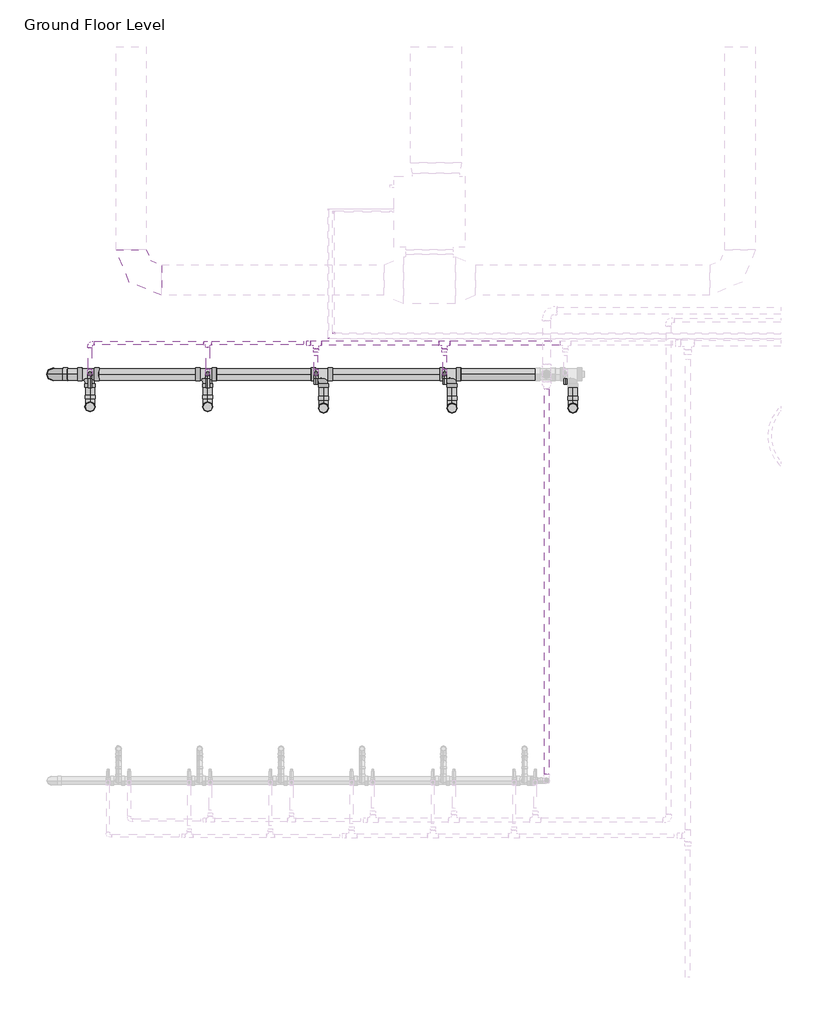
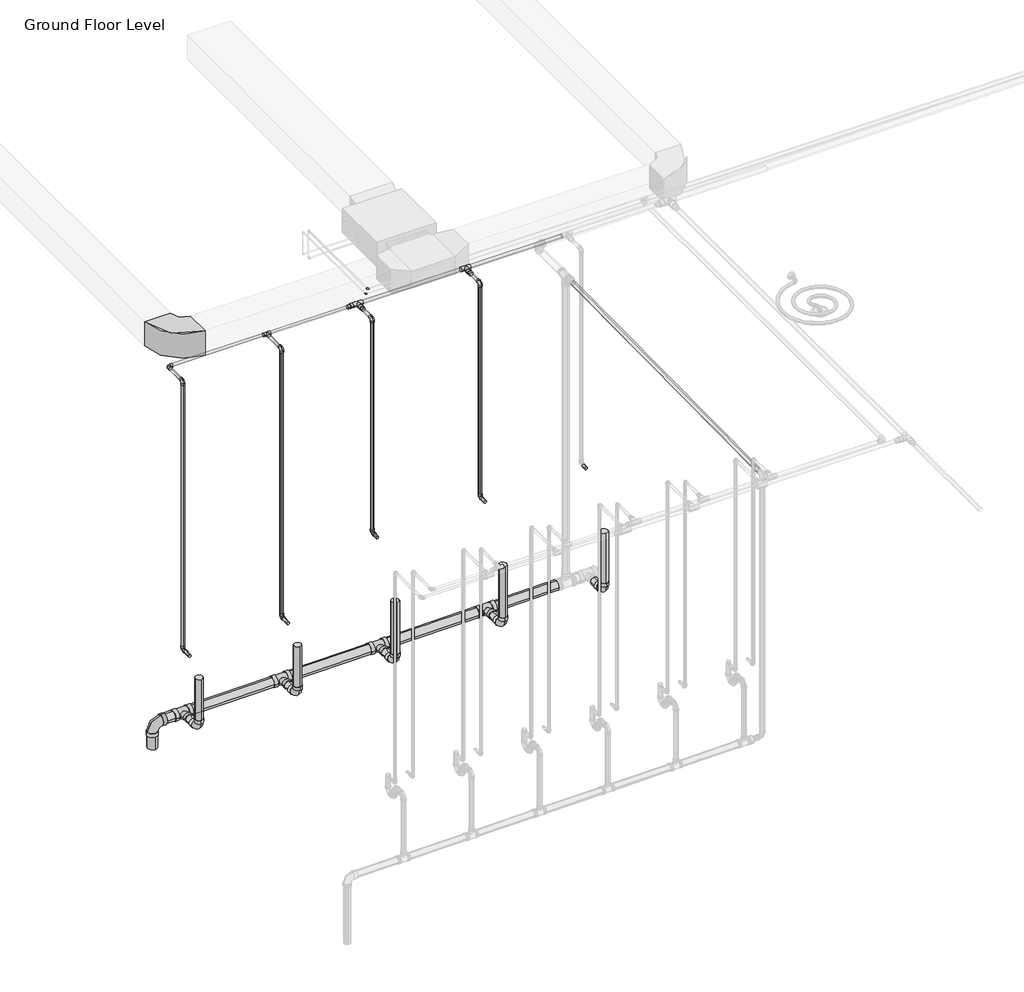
# One storey, part 42 of 74: 34 pipe segments, 27 pipe fittings, 1 duct fitting.
"""IFC4 building model written with IfcOpenShell, lengths in millimetres."""

from ifc_helpers import new_model, si_unit, point, frame, frame_2d, origin, place, context, project, spatial, circle_curve, trimmed, segment, composite_curve, outline, extrude, transform, mapped, element, save
from components import m_rectangular_elbow_radius_1_w_618da153, m_bend_pvc_sch_40_dwv_standard_a4b99d37, m_bend_pvc_sch_40_dwv_standard_aa7efa4c, m_elbow_generic_standard_a088f956, m_elbow_generic_standard_2a704253, m_tee_reducing_sanitary_pvc_sch_40_dwv_standard_b49161a9, standard_517a5a8d, standard_ecb2b93d, standard_28db8dab, standard_72b35c3b, standard_08ff6011, standard_d0d0b892

model = new_model("IFC4")

# Units and contexts
model_context = context("Model", 3, world=origin())
ifc_project = project(units=[si_unit("LENGTHUNIT", "METRE", prefix="MILLI")], contexts=[model_context])

# Site, building, storey
site = spatial("IfcSite", under=ifc_project)
building = spatial("IfcBuilding", under=site)
storey = spatial("IfcBuildingStorey", under=building, Name="Ground Floor Level", Elevation=900.0)

# Duct fitting
placement = place(None, origin())
m_rectangular_elbow_radius_1_w_shape = m_rectangular_elbow_radius_1_w_618da153(model_context)
element("IfcDuctFitting", 1, ObjectType="M_Rectangular Elbow - Radius : 1 W", at=placement, inside=storey, context=model_context, shape_type="MappedRepresentation", body=[
    mapped(m_rectangular_elbow_radius_1_w_shape, transform((-20937.2327605, 14069.8153534, 4075.2881511), x_axis=(0.0, -1.0, 0.0), y_axis=(1.0, 0.0, 0.0), z_axis=(0.0, 0.0, 1.0))),
])

# Pipe fittings
m_bend_pvc_sch_40_dwv_standard_shape = m_bend_pvc_sch_40_dwv_standard_a4b99d37(model_context)
element("IfcPipeFitting", 2, ObjectType="M_Bend - PVC - Sch 40 - DWV : Standard", at=placement, inside=storey, context=model_context, shape_type="MappedRepresentation", body=[
    mapped(m_bend_pvc_sch_40_dwv_standard_shape, transform((-21343.0428538, 12823.8178806, 203.6352174), x_axis=(0.0, 0.0, -1.0), y_axis=(0.0, 1.0, 0.0), z_axis=(1.0, 0.0, 0.0))),
])
element("IfcPipeFitting", 3, ObjectType="M_Bend - PVC - Sch 40 - DWV : Standard", at=placement, inside=storey, context=model_context, shape_type="MappedRepresentation", body=[
    mapped(m_bend_pvc_sch_40_dwv_standard_shape, transform((-20183.0428538, 12823.8178806, 215.2352174), x_axis=(0.0, 0.0, -1.0), y_axis=(0.0, 1.0, 0.0), z_axis=(1.0, 0.0, 0.0))),
])
element("IfcPipeFitting", 4, ObjectType="M_Bend - PVC - Sch 40 - DWV : Standard", at=placement, inside=storey, context=model_context, shape_type="MappedRepresentation", body=[
    mapped(m_bend_pvc_sch_40_dwv_standard_shape, transform((-19043.0428538, 12811.6726561, 226.6352174), x_axis=(0.0, 0.0, -1.0), y_axis=(0.0, 1.0, 0.0), z_axis=(1.0, 0.0, 0.0))),
])
element("IfcPipeFitting", 5, ObjectType="M_Bend - PVC - Sch 40 - DWV : Standard", at=placement, inside=storey, context=model_context, shape_type="MappedRepresentation", body=[
    mapped(m_bend_pvc_sch_40_dwv_standard_shape, transform((-17775.8329095, 12811.6726561, 239.3073168), x_axis=(0.0, 0.0, -1.0), y_axis=(0.0, 1.0, 0.0), z_axis=(1.0, 0.0, 0.0))),
])
element("IfcPipeFitting", 6, ObjectType="M_Bend - PVC - Sch 40 - DWV : Standard", at=placement, inside=storey, context=model_context, shape_type="MappedRepresentation", body=[
    mapped(m_bend_pvc_sch_40_dwv_standard_shape, transform((-16586.4202262, 12811.6726561, 251.2014437), x_axis=(0.0, 0.0, -1.0), y_axis=(0.0, 1.0, 0.0), z_axis=(1.0, 0.0, 0.0))),
])
m_bend_pvc_sch_40_dwv_standard_2_shape = m_bend_pvc_sch_40_dwv_standard_aa7efa4c(model_context)
element("IfcPipeFitting", 7, ObjectType="M_Bend - PVC - Sch 40 - DWV : Standard", at=placement, inside=storey, context=model_context, shape_type="MappedRepresentation", body=[
    mapped(m_bend_pvc_sch_40_dwv_standard_2_shape, transform((-21707.2327605, 13143.7240477, 200.1933183), x_axis=(0.0, 0.0, 1.0), y_axis=(1.0, 0.0, 0.0), z_axis=(0.0, 1.0, 0.0))),
])
m_elbow_generic_standard_shape = m_elbow_generic_standard_a088f956(model_context)
element("IfcPipeFitting", 8, ObjectType="M_Elbow - Generic : Standard", at=placement, inside=storey, context=model_context, shape_type="MappedRepresentation", body=[
    mapped(m_elbow_generic_standard_shape, transform((-18945.3327605, 13545.2153534, 4380.0), x_axis=(0.0, -1.0, 0.0), y_axis=(1.0, 0.0, 0.0), z_axis=(0.0, 0.0, 1.0))),
])
m_elbow_generic_standard_2_shape = m_elbow_generic_standard_2a704253(model_context)
element("IfcPipeFitting", 9, ObjectType="M_Elbow - Generic : Standard", at=placement, inside=storey, context=model_context, shape_type="MappedRepresentation", body=[
    mapped(m_elbow_generic_standard_2_shape, transform((-18995.0192947, 13494.0185138, 4365.0), x_axis=(0.0, -1.0, 0.0), y_axis=(1.0, 0.0, 0.0), z_axis=(0.0, 0.0, 1.0))),
])
m_tee_reducing_sanitary_pvc_sch_40_dwv_standard_shape = m_tee_reducing_sanitary_pvc_sch_40_dwv_standard_b49161a9(model_context)
element("IfcPipeFitting", 10, ObjectType="M_Tee Reducing Sanitary - PVC - Sch 40 - DWV : Standard", at=placement, inside=storey, context=model_context, shape_type="MappedRepresentation", body=[
    mapped(m_tee_reducing_sanitary_pvc_sch_40_dwv_standard_shape, transform((-21343.0428538, 13143.7240477, 203.6352174), x_axis=(0.9999500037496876, 0.0, 0.009999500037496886), y_axis=(0.0, 1.0, 0.0), z_axis=(-0.009999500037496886, 0.0, 0.9999500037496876))),
])
element("IfcPipeFitting", 11, ObjectType="M_Tee Reducing Sanitary - PVC - Sch 40 - DWV : Standard", at=placement, inside=storey, context=model_context, shape_type="MappedRepresentation", body=[
    mapped(m_tee_reducing_sanitary_pvc_sch_40_dwv_standard_shape, transform((-20183.0428538, 13143.7240477, 215.2352174), x_axis=(0.9999500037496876, 0.0, 0.009999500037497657), y_axis=(0.0, 1.0, 0.0), z_axis=(-0.009999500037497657, 0.0, 0.9999500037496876))),
])
element("IfcPipeFitting", 12, ObjectType="M_Tee Reducing Sanitary - PVC - Sch 40 - DWV : Standard", at=placement, inside=storey, context=model_context, shape_type="MappedRepresentation", body=[
    mapped(m_tee_reducing_sanitary_pvc_sch_40_dwv_standard_shape, transform((-19043.0428538, 13143.7240477, 226.6352174), x_axis=(0.9999500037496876, 0.0, 0.009999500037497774), y_axis=(0.0, 1.0000000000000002, 0.0), z_axis=(-0.009999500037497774, 0.0, 0.9999500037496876))),
])
element("IfcPipeFitting", 13, ObjectType="M_Tee Reducing Sanitary - PVC - Sch 40 - DWV : Standard", at=placement, inside=storey, context=model_context, shape_type="MappedRepresentation", body=[
    mapped(m_tee_reducing_sanitary_pvc_sch_40_dwv_standard_shape, transform((-17775.8329095, 13143.7240477, 239.3073168), x_axis=(0.9999500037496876, 0.0, 0.00999950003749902), y_axis=(0.0, 1.0000000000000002, 0.0), z_axis=(-0.00999950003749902, 0.0, 0.9999500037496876))),
])
standard_shape = standard_517a5a8d(model_context)
element("IfcPipeFitting", 14, ObjectType="M_Elbow - CPVC - Sch 40 : Standard", at=placement, inside=storey, context=model_context, shape_type="MappedRepresentation", body=[
    mapped(standard_shape, transform((-21343.0428538, 13149.9865561, 4315.0), x_axis=(0.0, 0.0, 1.0), y_axis=(0.0, 1.0, 0.0), z_axis=(-1.0, 0.0, 0.0))),
])
element("IfcPipeFitting", 15, ObjectType="M_Elbow - CPVC - Sch 40 : Standard", at=placement, inside=storey, context=model_context, shape_type="MappedRepresentation", body=[
    mapped(standard_shape, transform((-20183.0428538, 13149.9865561, 4315.0), x_axis=(0.0, 0.0, 1.0), y_axis=(0.0, 1.0, 0.0), z_axis=(-1.0, 0.0, 0.0))),
])
element("IfcPipeFitting", 16, ObjectType="M_Elbow - CPVC - Sch 40 : Standard", at=placement, inside=storey, context=model_context, shape_type="MappedRepresentation", body=[
    mapped(standard_shape, transform((-19116.48162, 13149.9865561, 1655.0), x_axis=(0.0, 1.0, 0.0), y_axis=(0.0, 0.0, 1.0), z_axis=(1.0, 0.0, 0.0))),
])
element("IfcPipeFitting", 17, ObjectType="M_Elbow - CPVC - Sch 40 : Standard", at=placement, inside=storey, context=model_context, shape_type="MappedRepresentation", body=[
    mapped(standard_shape, transform((-19116.48162, 13149.9865561, 4315.0), x_axis=(0.0, 0.0, 1.0), y_axis=(0.0, 1.0, 0.0), z_axis=(-1.0, 0.0, 0.0))),
])
element("IfcPipeFitting", 18, ObjectType="M_Elbow - CPVC - Sch 40 : Standard", at=placement, inside=storey, context=model_context, shape_type="MappedRepresentation", body=[
    mapped(standard_shape, transform((-17849.2716757, 13149.9865561, 4315.0), x_axis=(0.0, 0.0, 1.0), y_axis=(0.0, 1.0, 0.0), z_axis=(-1.0, 0.0, 0.0))),
])
element("IfcPipeFitting", 19, ObjectType="M_Elbow - CPVC - Sch 40 : Standard", at=placement, inside=storey, context=model_context, shape_type="MappedRepresentation", body=[
    mapped(standard_shape, transform((-17849.2716757, 13149.9865561, 1655.0), x_axis=(0.0, 0.0, -1.0), y_axis=(0.0, -1.0, 0.0), z_axis=(-1.0, 0.0, 0.0))),
])
element("IfcPipeFitting", 20, ObjectType="M_Elbow - CPVC - Sch 40 : Standard", at=placement, inside=storey, context=model_context, shape_type="MappedRepresentation", body=[
    mapped(standard_shape, transform((-21343.0428538, 13449.9865561, 4315.0), x_axis=(-1.0, 0.0, 0.0), y_axis=(0.0, -1.0, 0.0), z_axis=(0.0, 0.0, 1.0))),
])
standard_2_shape = standard_ecb2b93d(model_context)
element("IfcPipeFitting", 21, ObjectType="M_Elbow - CPVC - Sch 40 : Standard", at=placement, inside=storey, context=model_context, shape_type="MappedRepresentation", body=[
    mapped(standard_2_shape, transform((-21343.0428538, 13149.9865561, 983.5000035), x_axis=(0.0, 0.9999999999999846, 1.7577295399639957e-07), y_axis=(0.0, -1.7577295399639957e-07, 0.9999999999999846), z_axis=(1.0, 0.0, 0.0))),
])
standard_3_shape = standard_28db8dab(model_context)
element("IfcPipeFitting", 22, ObjectType="M_Elbow - CPVC - Sch 40 : Standard", at=placement, inside=storey, context=model_context, shape_type="MappedRepresentation", body=[
    mapped(standard_3_shape, transform((-20183.0428538, 13149.9865561, 983.4999984), x_axis=(0.0, 0.0, -1.0), y_axis=(0.0, -1.0, 0.0), z_axis=(-1.0, 0.0, 0.0))),
])
standard_4_shape = standard_72b35c3b(model_context)
element("IfcPipeFitting", 23, ObjectType="M_Tee - CPVC - Sch 40 : Standard", at=placement, inside=storey, context=model_context, shape_type="MappedRepresentation", body=[
    mapped(standard_4_shape, transform((-20183.0428538, 13449.9865561, 4315.0), x_axis=(-1.0, 0.0, 0.0), y_axis=(0.0, 1.0, 0.0), z_axis=(0.0, 0.0, -1.0))),
])
standard_5_shape = standard_08ff6011(model_context)
element("IfcPipeFitting", 24, ObjectType="M_Tee - CPVC - Sch 40 : Standard", at=placement, inside=storey, context=model_context, shape_type="MappedRepresentation", body=[
    mapped(standard_5_shape, transform((-19116.48162, 13449.9865561, 4315.0), x_axis=(-1.0, 0.0, 0.0), y_axis=(0.0, 1.0, 0.0), z_axis=(0.0, 0.0, -1.0))),
])
element("IfcPipeFitting", 25, ObjectType="M_Tee - CPVC - Sch 40 : Standard", at=placement, inside=storey, context=model_context, shape_type="MappedRepresentation", body=[
    mapped(standard_5_shape, transform((-17849.2716757, 13449.9865561, 4315.0), x_axis=(-1.0, 0.0, 0.0), y_axis=(0.0, 1.0, 0.0), z_axis=(0.0, 0.0, -1.0))),
])
standard_6_shape = standard_d0d0b892(model_context)
element("IfcPipeFitting", 26, ObjectType="M_Coupling Reducing - CPVC - Sch 40 : Standard", at=placement, inside=storey, context=model_context, shape_type="MappedRepresentation", body=[
    mapped(standard_6_shape, transform((-19116.48162, 13396.0115561, 4315.0), x_axis=(0.0, -1.0, 0.0), y_axis=(1.0, 0.0, 0.0), z_axis=(0.0, 0.0, 1.0))),
])
element("IfcPipeFitting", 27, ObjectType="M_Coupling Reducing - CPVC - Sch 40 : Standard", at=placement, inside=storey, context=model_context, shape_type="MappedRepresentation", body=[
    mapped(standard_6_shape, transform((-17849.2716757, 13396.0115561, 4315.0), x_axis=(0.0, -1.0, 0.0), y_axis=(1.0, 0.0, 0.0), z_axis=(0.0, 0.0, 1.0))),
])
element("IfcPipeFitting", 28, ObjectType="M_Coupling Reducing - CPVC - Sch 40 : Standard", at=placement, inside=storey, context=model_context, shape_type="MappedRepresentation", body=[
    mapped(standard_6_shape, transform((-19170.45662, 13449.9865561, 4315.0), x_axis=(-1.0, 0.0, 0.0), y_axis=(0.0, -1.0, 0.0), z_axis=(0.0, 0.0, 1.0))),
])

# Pipe segments
element("IfcPipeSegment", 29, ObjectType="CPVC", at=placement, inside=storey, context=model_context, shape_type="SweptSolid", body=[
    extrude(outline(composite_curve([segment(trimmed(circle_curve(frame_2d((983.4999789, -21343.0428538)), 16.7005), [point((983.4999789, -21326.3423538))], [point((1000.2004789, -21343.0428538))], False, "CARTESIAN"), True, "CONTINUOUS"), segment(trimmed(circle_curve(frame_2d((983.4999789, -21343.0428538)), 16.7005), [point((1000.2004789, -21343.0428538))], [point((983.4999789, -21359.7433538))], False, "CARTESIAN"), True, "CONTINUOUS"), segment(trimmed(circle_curve(frame_2d((983.4999789, -21343.0428538)), 16.7005), [point((983.4999789, -21359.7433538))], [point((966.7994789, -21343.0428538))], False, "CARTESIAN"), True, "CONTINUOUS"), segment(trimmed(circle_curve(frame_2d((983.4999789, -21343.0428538)), 16.7005), [point((966.7994789, -21343.0428538))], [point((983.4999789, -21326.3423538))], False, "CARTESIAN"), True, "CONTINUOUS")], self_intersect=False)), frame((0.0, 13009.9865561, 0.0), z_axis=(0.0, 1.0, 0.0), x_axis=(0.0, 0.0, 1.0)), (0.0, 0.0, 1.0), 96.7374537),
])
element("IfcPipeSegment", 30, ObjectType="CPVC", at=placement, inside=storey, context=model_context, shape_type="SweptSolid", body=[
    extrude(outline(composite_curve([segment(trimmed(circle_curve(frame_2d((4315.0, -21343.0428538)), 16.7005), [point((4315.0, -21326.3423538))], [point((4331.7005, -21343.0428538))], False, "CARTESIAN"), True, "CONTINUOUS"), segment(trimmed(circle_curve(frame_2d((4315.0, -21343.0428538)), 16.7005), [point((4331.7005, -21343.0428538))], [point((4315.0, -21359.7433538))], False, "CARTESIAN"), True, "CONTINUOUS"), segment(trimmed(circle_curve(frame_2d((4315.0, -21343.0428538)), 16.7005), [point((4315.0, -21359.7433538))], [point((4298.2995, -21343.0428538))], False, "CARTESIAN"), True, "CONTINUOUS"), segment(trimmed(circle_curve(frame_2d((4315.0, -21343.0428538)), 16.7005), [point((4298.2995, -21343.0428538))], [point((4315.0, -21326.3423538))], False, "CARTESIAN"), True, "CONTINUOUS")], self_intersect=False)), frame((0.0, 13193.2491061, 0.0), z_axis=(0.0, 1.0, 0.0), x_axis=(0.0, 0.0, 1.0)), (0.0, 0.0, 1.0), 213.4749),
])
element("IfcPipeSegment", 31, ObjectType="CPVC", at=placement, inside=storey, context=model_context, shape_type="SweptSolid", body=[
    extrude(outline(composite_curve([segment(trimmed(circle_curve(frame_2d((-21343.0428538, 13149.9865561)), 16.7005), [point((-21359.7433538, 13149.9865561))], [point((-21343.0428538, 13166.6870561))], False, "CARTESIAN"), True, "CONTINUOUS"), segment(trimmed(circle_curve(frame_2d((-21343.0428538, 13149.9865561)), 16.7005), [point((-21343.0428538, 13166.6870561))], [point((-21326.3423538, 13149.9865561))], False, "CARTESIAN"), True, "CONTINUOUS"), segment(trimmed(circle_curve(frame_2d((-21343.0428538, 13149.9865561)), 16.7005), [point((-21326.3423538, 13149.9865561))], [point((-21343.0428538, 13133.2860561))], False, "CARTESIAN"), True, "CONTINUOUS"), segment(trimmed(circle_curve(frame_2d((-21343.0428538, 13149.9865561)), 16.7005), [point((-21343.0428538, 13133.2860561))], [point((-21359.7433538, 13149.9865561))], False, "CARTESIAN"), True, "CONTINUOUS")], self_intersect=False)), frame((0.0, 0.0, 1026.7625498), z_axis=(0.0, 0.0, 1.0), x_axis=(1.0, 0.0, 0.0)), (0.0, 0.0, 1.0), 3244.9749002),
])
element("IfcPipeSegment", 32, ObjectType="CPVC", at=placement, inside=storey, context=model_context, shape_type="SweptSolid", body=[
    extrude(outline(composite_curve([segment(trimmed(circle_curve(frame_2d((983.4999924, -20183.0428538)), 16.7005), [point((983.4999924, -20199.7433538))], [point((966.7994924, -20183.0428538))], False, "CARTESIAN"), True, "CONTINUOUS"), segment(trimmed(circle_curve(frame_2d((983.4999924, -20183.0428538)), 16.7005), [point((966.7994924, -20183.0428538))], [point((983.4999924, -20166.3423538))], False, "CARTESIAN"), True, "CONTINUOUS"), segment(trimmed(circle_curve(frame_2d((983.4999924, -20183.0428538)), 16.7005), [point((983.4999924, -20166.3423538))], [point((1000.2004924, -20183.0428538))], False, "CARTESIAN"), True, "CONTINUOUS"), segment(trimmed(circle_curve(frame_2d((983.4999924, -20183.0428538)), 16.7005), [point((1000.2004924, -20183.0428538))], [point((983.4999924, -20199.7433538))], False, "CARTESIAN"), True, "CONTINUOUS")], self_intersect=False)), frame((0.0, 13009.9865561, 0.0), z_axis=(0.0, 1.0, 0.0), x_axis=(0.0, 0.0, 1.0)), (0.0, 0.0, 1.0), 96.7374529),
])
element("IfcPipeSegment", 33, ObjectType="CPVC", at=placement, inside=storey, context=model_context, shape_type="SweptSolid", body=[
    extrude(outline(composite_curve([segment(trimmed(circle_curve(frame_2d((-20183.0428538, 13149.9865561)), 16.7005), [point((-20199.7433538, 13149.9865561))], [point((-20183.0428538, 13166.6870561))], False, "CARTESIAN"), True, "CONTINUOUS"), segment(trimmed(circle_curve(frame_2d((-20183.0428538, 13149.9865561)), 16.7005), [point((-20183.0428538, 13166.6870561))], [point((-20166.3423538, 13149.9865561))], False, "CARTESIAN"), True, "CONTINUOUS"), segment(trimmed(circle_curve(frame_2d((-20183.0428538, 13149.9865561)), 16.7005), [point((-20166.3423538, 13149.9865561))], [point((-20183.0428538, 13133.2860561))], False, "CARTESIAN"), True, "CONTINUOUS"), segment(trimmed(circle_curve(frame_2d((-20183.0428538, 13149.9865561)), 16.7005), [point((-20183.0428538, 13133.2860561))], [point((-20199.7433538, 13149.9865561))], False, "CARTESIAN"), True, "CONTINUOUS")], self_intersect=False)), frame((0.0, 0.0, 1026.7625455), z_axis=(0.0, 0.0, 1.0), x_axis=(1.0, 0.0, 0.0)), (0.0, 0.0, 1.0), 3244.9749045),
])
element("IfcPipeSegment", 34, ObjectType="CPVC", at=placement, inside=storey, context=model_context, shape_type="SweptSolid", body=[
    extrude(outline(composite_curve([segment(trimmed(circle_curve(frame_2d((1655.0, -19116.48162)), 16.7005), [point((1655.0, -19099.78112))], [point((1671.7005, -19116.48162))], False, "CARTESIAN"), True, "CONTINUOUS"), segment(trimmed(circle_curve(frame_2d((1655.0, -19116.48162)), 16.7005), [point((1671.7005, -19116.48162))], [point((1655.0, -19133.18212))], False, "CARTESIAN"), True, "CONTINUOUS"), segment(trimmed(circle_curve(frame_2d((1655.0, -19116.48162)), 16.7005), [point((1655.0, -19133.18212))], [point((1638.2995, -19116.48162))], False, "CARTESIAN"), True, "CONTINUOUS"), segment(trimmed(circle_curve(frame_2d((1655.0, -19116.48162)), 16.7005), [point((1638.2995, -19116.48162))], [point((1655.0, -19099.78112))], False, "CARTESIAN"), True, "CONTINUOUS")], self_intersect=False)), frame((0.0, 13045.2153534, 0.0), z_axis=(0.0, 1.0, 0.0), x_axis=(0.0, 0.0, 1.0)), (0.0, 0.0, 1.0), 61.5086528),
])
element("IfcPipeSegment", 35, ObjectType="CPVC", at=placement, inside=storey, context=model_context, shape_type="SweptSolid", body=[
    extrude(outline(composite_curve([segment(trimmed(circle_curve(frame_2d((-19116.48162, 13149.9865561)), 16.7005), [point((-19133.18212, 13149.9865561))], [point((-19116.48162, 13166.6870561))], False, "CARTESIAN"), True, "CONTINUOUS"), segment(trimmed(circle_curve(frame_2d((-19116.48162, 13149.9865561)), 16.7005), [point((-19116.48162, 13166.6870561))], [point((-19099.78112, 13149.9865561))], False, "CARTESIAN"), True, "CONTINUOUS"), segment(trimmed(circle_curve(frame_2d((-19116.48162, 13149.9865561)), 16.7005), [point((-19099.78112, 13149.9865561))], [point((-19116.48162, 13133.2860561))], False, "CARTESIAN"), True, "CONTINUOUS"), segment(trimmed(circle_curve(frame_2d((-19116.48162, 13149.9865561)), 16.7005), [point((-19116.48162, 13133.2860561))], [point((-19133.18212, 13149.9865561))], False, "CARTESIAN"), True, "CONTINUOUS")], self_intersect=False)), frame((0.0, 0.0, 1698.26255), z_axis=(0.0, 0.0, 1.0), x_axis=(1.0, 0.0, 0.0)), (0.0, 0.0, 1.0), 2573.4749),
])
element("IfcPipeSegment", 36, ObjectType="CPVC", at=placement, inside=storey, context=model_context, shape_type="SweptSolid", body=[
    extrude(outline(composite_curve([segment(trimmed(circle_curve(frame_2d((1655.0, -17849.2716757)), 16.7005), [point((1655.0, -17865.9721757))], [point((1638.2995, -17849.2716757))], False, "CARTESIAN"), True, "CONTINUOUS"), segment(trimmed(circle_curve(frame_2d((1655.0, -17849.2716757)), 16.7005), [point((1638.2995, -17849.2716757))], [point((1655.0, -17832.5711757))], False, "CARTESIAN"), True, "CONTINUOUS"), segment(trimmed(circle_curve(frame_2d((1655.0, -17849.2716757)), 16.7005), [point((1655.0, -17832.5711757))], [point((1671.7005, -17849.2716757))], False, "CARTESIAN"), True, "CONTINUOUS"), segment(trimmed(circle_curve(frame_2d((1655.0, -17849.2716757)), 16.7005), [point((1671.7005, -17849.2716757))], [point((1655.0, -17865.9721757))], False, "CARTESIAN"), True, "CONTINUOUS")], self_intersect=False)), frame((0.0, 13045.2153534, 0.0), z_axis=(0.0, 1.0, 0.0), x_axis=(0.0, 0.0, 1.0)), (0.0, 0.0, 1.0), 61.5086528),
])
element("IfcPipeSegment", 37, ObjectType="CPVC", at=placement, inside=storey, context=model_context, shape_type="SweptSolid", body=[
    extrude(outline(composite_curve([segment(trimmed(circle_curve(frame_2d((-17849.2716757, 13149.9865561)), 16.7005), [point((-17865.9721757, 13149.9865561))], [point((-17849.2716757, 13166.6870561))], False, "CARTESIAN"), True, "CONTINUOUS"), segment(trimmed(circle_curve(frame_2d((-17849.2716757, 13149.9865561)), 16.7005), [point((-17849.2716757, 13166.6870561))], [point((-17832.5711757, 13149.9865561))], False, "CARTESIAN"), True, "CONTINUOUS"), segment(trimmed(circle_curve(frame_2d((-17849.2716757, 13149.9865561)), 16.7005), [point((-17832.5711757, 13149.9865561))], [point((-17849.2716757, 13133.2860561))], False, "CARTESIAN"), True, "CONTINUOUS"), segment(trimmed(circle_curve(frame_2d((-17849.2716757, 13149.9865561)), 16.7005), [point((-17849.2716757, 13133.2860561))], [point((-17865.9721757, 13149.9865561))], False, "CARTESIAN"), True, "CONTINUOUS")], self_intersect=False)), frame((0.0, 0.0, 1698.26255), z_axis=(0.0, 0.0, 1.0), x_axis=(1.0, 0.0, 0.0)), (0.0, 0.0, 1.0), 2573.4749),
])
element("IfcPipeSegment", 38, ObjectType="CPVC", at=placement, inside=storey, context=model_context, shape_type="SweptSolid", body=[
    extrude(outline(composite_curve([segment(trimmed(circle_curve(frame_2d((1655.0, -16659.8589924)), 16.7005), [point((1655.0, -16676.5594924))], [point((1638.2995, -16659.8589924))], False, "CARTESIAN"), True, "CONTINUOUS"), segment(trimmed(circle_curve(frame_2d((1655.0, -16659.8589924)), 16.7005), [point((1638.2995, -16659.8589924))], [point((1655.0, -16643.1584924))], False, "CARTESIAN"), True, "CONTINUOUS"), segment(trimmed(circle_curve(frame_2d((1655.0, -16659.8589924)), 16.7005), [point((1655.0, -16643.1584924))], [point((1671.7005, -16659.8589924))], False, "CARTESIAN"), True, "CONTINUOUS"), segment(trimmed(circle_curve(frame_2d((1655.0, -16659.8589924)), 16.7005), [point((1671.7005, -16659.8589924))], [point((1655.0, -16676.5594924))], False, "CARTESIAN"), True, "CONTINUOUS")], self_intersect=False)), frame((0.0, 13045.2153534, 0.0), z_axis=(0.0, 1.0, 0.0), x_axis=(0.0, 0.0, 1.0)), (0.0, 0.0, 1.0), 61.5086528),
])
element("IfcPipeSegment", 39, ObjectType="CPVC", at=placement, inside=storey, context=model_context, shape_type="SweptSolid", body=[
    extrude(outline(composite_curve([segment(trimmed(circle_curve(frame_2d((13449.9865561, 4315.0)), 16.7005), [point((13433.2860561, 4315.0))], [point((13449.9865561, 4331.7005))], False, "CARTESIAN"), True, "CONTINUOUS"), segment(trimmed(circle_curve(frame_2d((13449.9865561, 4315.0)), 16.7005), [point((13449.9865561, 4331.7005))], [point((13466.6870561, 4315.0))], False, "CARTESIAN"), True, "CONTINUOUS"), segment(trimmed(circle_curve(frame_2d((13449.9865561, 4315.0)), 16.7005), [point((13466.6870561, 4315.0))], [point((13449.9865561, 4298.2995))], False, "CARTESIAN"), True, "CONTINUOUS"), segment(trimmed(circle_curve(frame_2d((13449.9865561, 4315.0)), 16.7005), [point((13449.9865561, 4298.2995))], [point((13433.2860561, 4315.0))], False, "CARTESIAN"), True, "CONTINUOUS")], self_intersect=False)), frame((-21299.7803038, 0.0, 0.0), z_axis=(1.0, 0.0, 0.0), x_axis=(0.0, 1.0, 0.0)), (0.0, 0.0, 1.0), 1077.03725),
])
element("IfcPipeSegment", 40, ObjectType="CPVC", at=placement, inside=storey, context=model_context, shape_type="SweptSolid", body=[
    extrude(outline(composite_curve([segment(trimmed(circle_curve(frame_2d((4315.0, -20183.0428538)), 16.7005), [point((4315.0, -20166.3423538))], [point((4331.7005, -20183.0428538))], False, "CARTESIAN"), True, "CONTINUOUS"), segment(trimmed(circle_curve(frame_2d((4315.0, -20183.0428538)), 16.7005), [point((4331.7005, -20183.0428538))], [point((4315.0, -20199.7433538))], False, "CARTESIAN"), True, "CONTINUOUS"), segment(trimmed(circle_curve(frame_2d((4315.0, -20183.0428538)), 16.7005), [point((4315.0, -20199.7433538))], [point((4298.2995, -20183.0428538))], False, "CARTESIAN"), True, "CONTINUOUS"), segment(trimmed(circle_curve(frame_2d((4315.0, -20183.0428538)), 16.7005), [point((4298.2995, -20183.0428538))], [point((4315.0, -20166.3423538))], False, "CARTESIAN"), True, "CONTINUOUS")], self_intersect=False)), frame((0.0, 13193.2491061, 0.0), z_axis=(0.0, 1.0, 0.0), x_axis=(0.0, 0.0, 1.0)), (0.0, 0.0, 1.0), 217.03725),
])
element("IfcPipeSegment", 41, ObjectType="CPVC", at=placement, inside=storey, context=model_context, shape_type="SweptSolid", body=[
    extrude(outline(composite_curve([segment(trimmed(circle_curve(frame_2d((13449.9865561, 4315.0)), 16.7005), [point((13433.2860561, 4315.0))], [point((13449.9865561, 4331.7005))], False, "CARTESIAN"), True, "CONTINUOUS"), segment(trimmed(circle_curve(frame_2d((13449.9865561, 4315.0)), 16.7005), [point((13449.9865561, 4331.7005))], [point((13466.6870561, 4315.0))], False, "CARTESIAN"), True, "CONTINUOUS"), segment(trimmed(circle_curve(frame_2d((13449.9865561, 4315.0)), 16.7005), [point((13466.6870561, 4315.0))], [point((13449.9865561, 4298.2995))], False, "CARTESIAN"), True, "CONTINUOUS"), segment(trimmed(circle_curve(frame_2d((13449.9865561, 4315.0)), 16.7005), [point((13449.9865561, 4298.2995))], [point((13433.2860561, 4315.0))], False, "CARTESIAN"), True, "CONTINUOUS")], self_intersect=False)), frame((-20143.3426538, 0.0, 0.0), z_axis=(1.0, 0.0, 0.0), x_axis=(0.0, 1.0, 0.0)), (0.0, 0.0, 1.0), 906.7671588),
])
element("IfcPipeSegment", 42, ObjectType="CPVC", at=placement, inside=storey, context=model_context, shape_type="SweptSolid", body=[
    extrude(outline(composite_curve([segment(trimmed(circle_curve(frame_2d((4315.0, -19116.48162)), 16.7005), [point((4315.0, -19099.78112))], [point((4331.7005, -19116.48162))], False, "CARTESIAN"), True, "CONTINUOUS"), segment(trimmed(circle_curve(frame_2d((4315.0, -19116.48162)), 16.7005), [point((4331.7005, -19116.48162))], [point((4315.0, -19133.18212))], False, "CARTESIAN"), True, "CONTINUOUS"), segment(trimmed(circle_curve(frame_2d((4315.0, -19116.48162)), 16.7005), [point((4315.0, -19133.18212))], [point((4298.2995, -19116.48162))], False, "CARTESIAN"), True, "CONTINUOUS"), segment(trimmed(circle_curve(frame_2d((4315.0, -19116.48162)), 16.7005), [point((4298.2995, -19116.48162))], [point((4315.0, -19099.78112))], False, "CARTESIAN"), True, "CONTINUOUS")], self_intersect=False)), frame((0.0, 13193.2491061, 0.0), z_axis=(0.0, 1.0, 0.0), x_axis=(0.0, 0.0, 1.0)), (0.0, 0.0, 1.0), 136.643575),
])
element("IfcPipeSegment", 43, ObjectType="CPVC", at=placement, inside=storey, context=model_context, shape_type="SweptSolid", body=[
    extrude(outline(composite_curve([segment(trimmed(circle_curve(frame_2d((13449.9865561, 4315.0)), 21.082), [point((13428.9045561, 4315.0))], [point((13449.9865561, 4336.082))], False, "CARTESIAN"), True, "CONTINUOUS"), segment(trimmed(circle_curve(frame_2d((13449.9865561, 4315.0)), 21.082), [point((13449.9865561, 4336.082))], [point((13471.0685561, 4315.0))], False, "CARTESIAN"), True, "CONTINUOUS"), segment(trimmed(circle_curve(frame_2d((13449.9865561, 4315.0)), 21.082), [point((13471.0685561, 4315.0))], [point((13449.9865561, 4293.918))], False, "CARTESIAN"), True, "CONTINUOUS"), segment(trimmed(circle_curve(frame_2d((13449.9865561, 4315.0)), 21.082), [point((13449.9865561, 4293.918))], [point((13428.9045561, 4315.0))], False, "CARTESIAN"), True, "CONTINUOUS")], self_intersect=False)), frame((-19062.50662, 0.0, 0.0), z_axis=(1.0, 0.0, 0.0), x_axis=(0.0, 1.0, 0.0)), (0.0, 0.0, 1.0), 1159.2599443),
])
element("IfcPipeSegment", 44, ObjectType="CPVC", at=placement, inside=storey, context=model_context, shape_type="SweptSolid", body=[
    extrude(outline(composite_curve([segment(trimmed(circle_curve(frame_2d((4315.0, -17849.2716757)), 16.7005), [point((4315.0, -17832.5711757))], [point((4331.7005, -17849.2716757))], False, "CARTESIAN"), True, "CONTINUOUS"), segment(trimmed(circle_curve(frame_2d((4315.0, -17849.2716757)), 16.7005), [point((4331.7005, -17849.2716757))], [point((4315.0, -17865.9721757))], False, "CARTESIAN"), True, "CONTINUOUS"), segment(trimmed(circle_curve(frame_2d((4315.0, -17849.2716757)), 16.7005), [point((4315.0, -17865.9721757))], [point((4298.2995, -17849.2716757))], False, "CARTESIAN"), True, "CONTINUOUS"), segment(trimmed(circle_curve(frame_2d((4315.0, -17849.2716757)), 16.7005), [point((4298.2995, -17849.2716757))], [point((4315.0, -17832.5711757))], False, "CARTESIAN"), True, "CONTINUOUS")], self_intersect=False)), frame((0.0, 13193.2491061, 0.0), z_axis=(0.0, 1.0, 0.0), x_axis=(0.0, 0.0, 1.0)), (0.0, 0.0, 1.0), 136.643575),
])
element("IfcPipeSegment", 45, ObjectType="CPVC", at=placement, inside=storey, context=model_context, shape_type="SweptSolid", body=[
    extrude(outline(composite_curve([segment(trimmed(circle_curve(frame_2d((13449.9865561, 4315.0)), 21.082), [point((13428.9045561, 4315.0))], [point((13449.9865561, 4336.082))], False, "CARTESIAN"), True, "CONTINUOUS"), segment(trimmed(circle_curve(frame_2d((13449.9865561, 4315.0)), 21.082), [point((13449.9865561, 4336.082))], [point((13471.0685561, 4315.0))], False, "CARTESIAN"), True, "CONTINUOUS"), segment(trimmed(circle_curve(frame_2d((13449.9865561, 4315.0)), 21.082), [point((13471.0685561, 4315.0))], [point((13449.9865561, 4293.918))], False, "CARTESIAN"), True, "CONTINUOUS"), segment(trimmed(circle_curve(frame_2d((13449.9865561, 4315.0)), 21.082), [point((13449.9865561, 4293.918))], [point((13428.9045561, 4315.0))], False, "CARTESIAN"), True, "CONTINUOUS")], self_intersect=False)), frame((-17795.2966757, 0.0, 0.0), z_axis=(1.0, 0.0, 0.0), x_axis=(0.0, 1.0, 0.0)), (0.0, 0.0, 1.0), 1081.4626833),
])
element("IfcPipeSegment", 46, ObjectType="PVC - DWV", at=placement, inside=storey, context=model_context, shape_type="SweptSolid", body=[
    extrude(outline(composite_curve([segment(trimmed(circle_curve(frame_2d((-21343.0428538, 12823.8178806)), 44.45), [point((-21298.5928538, 12823.8178806))], [point((-21343.0428538, 12779.3678806))], False, "CARTESIAN"), True, "CONTINUOUS"), segment(trimmed(circle_curve(frame_2d((-21343.0428538, 12823.8178806)), 44.45), [point((-21343.0428538, 12779.3678806))], [point((-21387.4928538, 12823.8178806))], False, "CARTESIAN"), True, "CONTINUOUS"), segment(trimmed(circle_curve(frame_2d((-21343.0428538, 12823.8178806)), 44.45), [point((-21387.4928538, 12823.8178806))], [point((-21343.0428538, 12868.2678806))], False, "CARTESIAN"), True, "CONTINUOUS"), segment(trimmed(circle_curve(frame_2d((-21343.0428538, 12823.8178806)), 44.45), [point((-21343.0428538, 12868.2678806))], [point((-21298.5928538, 12823.8178806))], False, "CARTESIAN"), True, "CONTINUOUS")], self_intersect=False)), frame((0.0, 0.0, 319.5354174), z_axis=(0.0, 0.0, 1.0), x_axis=(1.0, 0.0, 0.0)), (0.0, 0.0, 1.0), 511.1329592),
])
element("IfcPipeSegment", 47, ObjectType="PVC - DWV", at=placement, inside=storey, context=model_context, shape_type="SweptSolid", body=[
    extrude(outline(composite_curve([segment(trimmed(circle_curve(frame_2d((203.6352174, -21343.0428538)), 44.45), [point((203.6352174, -21298.5928538))], [point((248.0852174, -21343.0428538))], False, "CARTESIAN"), True, "CONTINUOUS"), segment(trimmed(circle_curve(frame_2d((203.6352174, -21343.0428538)), 44.45), [point((248.0852174, -21343.0428538))], [point((203.6352174, -21387.4928538))], False, "CARTESIAN"), True, "CONTINUOUS"), segment(trimmed(circle_curve(frame_2d((203.6352174, -21343.0428538)), 44.45), [point((203.6352174, -21387.4928538))], [point((159.1852174, -21343.0428538))], False, "CARTESIAN"), True, "CONTINUOUS"), segment(trimmed(circle_curve(frame_2d((203.6352174, -21343.0428538)), 44.45), [point((159.1852174, -21343.0428538))], [point((203.6352174, -21298.5928538))], False, "CARTESIAN"), True, "CONTINUOUS")], self_intersect=False)), frame((0.0, 12939.7180806, 0.0), z_axis=(0.0, 1.0, 0.0), x_axis=(0.0, 0.0, 1.0)), (0.0, 0.0, 1.0), 75.4057671),
])
element("IfcPipeSegment", 48, ObjectType="PVC - DWV", at=placement, inside=storey, context=model_context, shape_type="SweptSolid", body=[
    extrude(outline(composite_curve([segment(trimmed(circle_curve(frame_2d((0.0, -57.15)), 57.15), [point((0.0, 0.0))], [point((57.15, -57.15))], False, "CARTESIAN"), True, "CONTINUOUS"), segment(trimmed(circle_curve(frame_2d((0.0, -57.15)), 57.15), [point((57.15, -57.15))], [point((0.0, -114.3))], False, "CARTESIAN"), True, "CONTINUOUS"), segment(trimmed(circle_curve(frame_2d((0.0, -57.15)), 57.15), [point((0.0, -114.3))], [point((-57.15, -57.15))], False, "CARTESIAN"), True, "CONTINUOUS"), segment(trimmed(circle_curve(frame_2d((0.0, -57.15)), 57.15), [point((-57.15, -57.15))], [point((0.0, 0.0))], False, "CARTESIAN"), True, "CONTINUOUS")], self_intersect=False)), frame((-21564.3649037, 13200.8740477, 201.6219969), z_axis=(0.9999500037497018, 0.0, 0.00999950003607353), x_axis=(0.00999950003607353, 0.0, -0.9999500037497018)), (0.0, 0.0, 1.0), 100.6811159),
])
element("IfcPipeSegment", 49, ObjectType="PVC - DWV", at=placement, inside=storey, context=model_context, shape_type="SweptSolid", body=[
    extrude(outline(composite_curve([segment(trimmed(circle_curve(frame_2d((-20183.0428538, 12823.8178806)), 44.45), [point((-20138.5928538, 12823.8178806))], [point((-20183.0428538, 12779.3678806))], False, "CARTESIAN"), True, "CONTINUOUS"), segment(trimmed(circle_curve(frame_2d((-20183.0428538, 12823.8178806)), 44.45), [point((-20183.0428538, 12779.3678806))], [point((-20227.4928538, 12823.8178806))], False, "CARTESIAN"), True, "CONTINUOUS"), segment(trimmed(circle_curve(frame_2d((-20183.0428538, 12823.8178806)), 44.45), [point((-20227.4928538, 12823.8178806))], [point((-20183.0428538, 12868.2678806))], False, "CARTESIAN"), True, "CONTINUOUS"), segment(trimmed(circle_curve(frame_2d((-20183.0428538, 12823.8178806)), 44.45), [point((-20183.0428538, 12868.2678806))], [point((-20138.5928538, 12823.8178806))], False, "CARTESIAN"), True, "CONTINUOUS")], self_intersect=False)), frame((0.0, 0.0, 331.1354174), z_axis=(0.0, 0.0, 1.0), x_axis=(1.0, 0.0, 0.0)), (0.0, 0.0, 1.0), 499.5329592),
])
element("IfcPipeSegment", 50, ObjectType="PVC - DWV", at=placement, inside=storey, context=model_context, shape_type="SweptSolid", body=[
    extrude(outline(composite_curve([segment(trimmed(circle_curve(frame_2d((215.2352174, -20183.0428538)), 44.45), [point((215.2352174, -20138.5928538))], [point((259.6852174, -20183.0428538))], False, "CARTESIAN"), True, "CONTINUOUS"), segment(trimmed(circle_curve(frame_2d((215.2352174, -20183.0428538)), 44.45), [point((259.6852174, -20183.0428538))], [point((215.2352174, -20227.4928538))], False, "CARTESIAN"), True, "CONTINUOUS"), segment(trimmed(circle_curve(frame_2d((215.2352174, -20183.0428538)), 44.45), [point((215.2352174, -20227.4928538))], [point((170.7852174, -20183.0428538))], False, "CARTESIAN"), True, "CONTINUOUS"), segment(trimmed(circle_curve(frame_2d((215.2352174, -20183.0428538)), 44.45), [point((170.7852174, -20183.0428538))], [point((215.2352174, -20138.5928538))], False, "CARTESIAN"), True, "CONTINUOUS")], self_intersect=False)), frame((0.0, 12939.7180806, 0.0), z_axis=(0.0, 1.0, 0.0), x_axis=(0.0, 0.0, 1.0)), (0.0, 0.0, 1.0), 75.4057671),
])
element("IfcPipeSegment", 51, ObjectType="PVC - DWV", at=placement, inside=storey, context=model_context, shape_type="SweptSolid", body=[
    extrude(outline(composite_curve([segment(trimmed(circle_curve(frame_2d((0.0, -57.15)), 57.15), [point((0.0, 0.0))], [point((57.1500001, -57.15))], False, "CARTESIAN"), True, "CONTINUOUS"), segment(trimmed(circle_curve(frame_2d((0.0, -57.15)), 57.15), [point((57.1500001, -57.15))], [point((0.0, -114.3))], False, "CARTESIAN"), True, "CONTINUOUS"), segment(trimmed(circle_curve(frame_2d((0.0, -57.15)), 57.15), [point((0.0, -114.3))], [point((-57.15, -57.15))], False, "CARTESIAN"), True, "CONTINUOUS"), segment(trimmed(circle_curve(frame_2d((0.0, -57.15)), 57.15), [point((-57.15, -57.15))], [point((0.0, 0.0))], False, "CARTESIAN"), True, "CONTINUOUS")], self_intersect=False)), frame((-21254.1472985, 13200.8740477, 204.524173), z_axis=(0.9999500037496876, 0.0, 0.009999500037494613), x_axis=(0.009999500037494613, 0.0, -0.9999500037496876)), (0.0, 0.0, 1.0), 950.5079986),
])
element("IfcPipeSegment", 52, ObjectType="PVC - DWV", at=placement, inside=storey, context=model_context, shape_type="SweptSolid", body=[
    extrude(outline(composite_curve([segment(trimmed(circle_curve(frame_2d((-19043.0428538, 12811.6726561)), 44.45), [point((-18998.5928538, 12811.6726561))], [point((-19043.0428538, 12767.2226561))], False, "CARTESIAN"), True, "CONTINUOUS"), segment(trimmed(circle_curve(frame_2d((-19043.0428538, 12811.6726561)), 44.45), [point((-19043.0428538, 12767.2226561))], [point((-19087.4928538, 12811.6726561))], False, "CARTESIAN"), True, "CONTINUOUS"), segment(trimmed(circle_curve(frame_2d((-19043.0428538, 12811.6726561)), 44.45), [point((-19087.4928538, 12811.6726561))], [point((-19043.0428538, 12856.1226561))], False, "CARTESIAN"), True, "CONTINUOUS"), segment(trimmed(circle_curve(frame_2d((-19043.0428538, 12811.6726561)), 44.45), [point((-19043.0428538, 12856.1226561))], [point((-18998.5928538, 12811.6726561))], False, "CARTESIAN"), True, "CONTINUOUS")], self_intersect=False)), frame((0.0, 0.0, 342.5354174), z_axis=(0.0, 0.0, 1.0), x_axis=(1.0, 0.0, 0.0)), (0.0, 0.0, 1.0), 647.4645826),
])
element("IfcPipeSegment", 53, ObjectType="PVC - DWV", at=placement, inside=storey, context=model_context, shape_type="SweptSolid", body=[
    extrude(outline(composite_curve([segment(trimmed(circle_curve(frame_2d((226.6352174, -19043.0428538)), 44.45), [point((226.6352174, -18998.5928538))], [point((271.0852174, -19043.0428538))], False, "CARTESIAN"), True, "CONTINUOUS"), segment(trimmed(circle_curve(frame_2d((226.6352174, -19043.0428538)), 44.45), [point((271.0852174, -19043.0428538))], [point((226.6352174, -19087.4928538))], False, "CARTESIAN"), True, "CONTINUOUS"), segment(trimmed(circle_curve(frame_2d((226.6352174, -19043.0428538)), 44.45), [point((226.6352174, -19087.4928538))], [point((182.1852174, -19043.0428538))], False, "CARTESIAN"), True, "CONTINUOUS"), segment(trimmed(circle_curve(frame_2d((226.6352174, -19043.0428538)), 44.45), [point((182.1852174, -19043.0428538))], [point((226.6352174, -18998.5928538))], False, "CARTESIAN"), True, "CONTINUOUS")], self_intersect=False)), frame((0.0, 12927.5728561, 0.0), z_axis=(0.0, 1.0, 0.0), x_axis=(0.0, 0.0, 1.0)), (0.0, 0.0, 1.0), 87.5509916),
])
element("IfcPipeSegment", 54, ObjectType="PVC - DWV", at=placement, inside=storey, context=model_context, shape_type="SweptSolid", body=[
    extrude(outline(composite_curve([segment(trimmed(circle_curve(frame_2d((0.0, -57.15)), 57.15), [point((0.0, 0.0))], [point((57.1500001, -57.15))], False, "CARTESIAN"), True, "CONTINUOUS"), segment(trimmed(circle_curve(frame_2d((0.0, -57.15)), 57.15), [point((57.1500001, -57.15))], [point((0.0, -114.3))], False, "CARTESIAN"), True, "CONTINUOUS"), segment(trimmed(circle_curve(frame_2d((0.0, -57.15)), 57.15), [point((0.0, -114.3))], [point((-57.15, -57.15))], False, "CARTESIAN"), True, "CONTINUOUS"), segment(trimmed(circle_curve(frame_2d((0.0, -57.15)), 57.15), [point((-57.15, -57.15))], [point((0.0, 0.0))], False, "CARTESIAN"), True, "CONTINUOUS")], self_intersect=False)), frame((-20094.1472985, 13200.8740477, 216.124173), z_axis=(0.9999500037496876, 0.0, 0.009999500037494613), x_axis=(0.009999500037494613, 0.0, -0.9999500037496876)), (0.0, 0.0, 1.0), 930.5069986),
])
element("IfcPipeSegment", 55, ObjectType="PVC - DWV", at=placement, inside=storey, context=model_context, shape_type="SweptSolid", body=[
    extrude(outline(composite_curve([segment(trimmed(circle_curve(frame_2d((-17775.8329095, 12811.6726561)), 44.45), [point((-17731.3829095, 12811.6726561))], [point((-17775.8329095, 12767.2226561))], False, "CARTESIAN"), True, "CONTINUOUS"), segment(trimmed(circle_curve(frame_2d((-17775.8329095, 12811.6726561)), 44.45), [point((-17775.8329095, 12767.2226561))], [point((-17820.2829095, 12811.6726561))], False, "CARTESIAN"), True, "CONTINUOUS"), segment(trimmed(circle_curve(frame_2d((-17775.8329095, 12811.6726561)), 44.45), [point((-17820.2829095, 12811.6726561))], [point((-17775.8329095, 12856.1226561))], False, "CARTESIAN"), True, "CONTINUOUS"), segment(trimmed(circle_curve(frame_2d((-17775.8329095, 12811.6726561)), 44.45), [point((-17775.8329095, 12856.1226561))], [point((-17731.3829095, 12811.6726561))], False, "CARTESIAN"), True, "CONTINUOUS")], self_intersect=False)), frame((0.0, 0.0, 355.2075168), z_axis=(0.0, 0.0, 1.0), x_axis=(1.0, 0.0, 0.0)), (0.0, 0.0, 1.0), 634.7924832),
])
element("IfcPipeSegment", 56, ObjectType="PVC - DWV", at=placement, inside=storey, context=model_context, shape_type="SweptSolid", body=[
    extrude(outline(composite_curve([segment(trimmed(circle_curve(frame_2d((239.3073168, -17775.8329095)), 44.45), [point((239.3073168, -17731.3829095))], [point((283.7573168, -17775.8329095))], False, "CARTESIAN"), True, "CONTINUOUS"), segment(trimmed(circle_curve(frame_2d((239.3073168, -17775.8329095)), 44.45), [point((283.7573168, -17775.8329095))], [point((239.3073168, -17820.2829095))], False, "CARTESIAN"), True, "CONTINUOUS"), segment(trimmed(circle_curve(frame_2d((239.3073168, -17775.8329095)), 44.45), [point((239.3073168, -17820.2829095))], [point((194.8573168, -17775.8329095))], False, "CARTESIAN"), True, "CONTINUOUS"), segment(trimmed(circle_curve(frame_2d((239.3073168, -17775.8329095)), 44.45), [point((194.8573168, -17775.8329095))], [point((239.3073168, -17731.3829095))], False, "CARTESIAN"), True, "CONTINUOUS")], self_intersect=False)), frame((0.0, 12927.5728561, 0.0), z_axis=(0.0, 1.0, 0.0), x_axis=(0.0, 0.0, 1.0)), (0.0, 0.0, 1.0), 87.5509916),
])
element("IfcPipeSegment", 57, ObjectType="PVC - DWV", at=placement, inside=storey, context=model_context, shape_type="SweptSolid", body=[
    extrude(outline(composite_curve([segment(trimmed(circle_curve(frame_2d((0.0, -57.15)), 57.15), [point((0.0, 0.0))], [point((57.1500001, -57.15))], False, "CARTESIAN"), True, "CONTINUOUS"), segment(trimmed(circle_curve(frame_2d((0.0, -57.15)), 57.15), [point((57.1500001, -57.15))], [point((0.0, -114.3))], False, "CARTESIAN"), True, "CONTINUOUS"), segment(trimmed(circle_curve(frame_2d((0.0, -57.15)), 57.15), [point((0.0, -114.3))], [point((-57.15, -57.15))], False, "CARTESIAN"), True, "CONTINUOUS"), segment(trimmed(circle_curve(frame_2d((0.0, -57.15)), 57.15), [point((-57.15, -57.15))], [point((0.0, 0.0))], False, "CARTESIAN"), True, "CONTINUOUS")], self_intersect=False)), frame((-18954.1472985, 13200.8740477, 227.524173), z_axis=(0.9999500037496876, 0.0, 0.009999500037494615), x_axis=(0.009999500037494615, 0.0, -0.9999500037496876)), (0.0, 0.0, 1.0), 1057.7233032),
])
element("IfcPipeSegment", 58, ObjectType="PVC - DWV", at=placement, inside=storey, context=model_context, shape_type="SweptSolid", body=[
    extrude(outline(composite_curve([segment(trimmed(circle_curve(frame_2d((0.0, -57.15)), 57.15), [point((0.0, 0.0))], [point((57.15, -57.15))], False, "CARTESIAN"), True, "CONTINUOUS"), segment(trimmed(circle_curve(frame_2d((0.0, -57.15)), 57.15), [point((57.15, -57.15))], [point((0.0, -114.3))], False, "CARTESIAN"), True, "CONTINUOUS"), segment(trimmed(circle_curve(frame_2d((0.0, -57.15)), 57.15), [point((0.0, -114.3))], [point((-57.15, -57.15))], False, "CARTESIAN"), True, "CONTINUOUS"), segment(trimmed(circle_curve(frame_2d((0.0, -57.15)), 57.15), [point((-57.15, -57.15))], [point((0.0, 0.0))], False, "CARTESIAN"), True, "CONTINUOUS")], self_intersect=False)), frame((-17686.9373542, 13200.8740477, 240.1962724), z_axis=(0.9999500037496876, 0.0, 0.009999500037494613), x_axis=(0.009999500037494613, 0.0, -0.9999500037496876)), (0.0, 0.0, 1.0), 730.9371051),
])
element("IfcPipeSegment", 59, ObjectType="PVC - DWV", at=placement, inside=storey, context=model_context, shape_type="SweptSolid", body=[
    extrude(outline(composite_curve([segment(trimmed(circle_curve(frame_2d((-16586.4202262, 12811.6726561)), 44.45), [point((-16541.9702262, 12811.6726561))], [point((-16586.4202262, 12767.2226561))], False, "CARTESIAN"), True, "CONTINUOUS"), segment(trimmed(circle_curve(frame_2d((-16586.4202262, 12811.6726561)), 44.45), [point((-16586.4202262, 12767.2226561))], [point((-16630.8702262, 12811.6726561))], False, "CARTESIAN"), True, "CONTINUOUS"), segment(trimmed(circle_curve(frame_2d((-16586.4202262, 12811.6726561)), 44.45), [point((-16630.8702262, 12811.6726561))], [point((-16586.4202262, 12856.1226561))], False, "CARTESIAN"), True, "CONTINUOUS"), segment(trimmed(circle_curve(frame_2d((-16586.4202262, 12811.6726561)), 44.45), [point((-16586.4202262, 12856.1226561))], [point((-16541.9702262, 12811.6726561))], False, "CARTESIAN"), True, "CONTINUOUS")], self_intersect=False)), frame((0.0, 0.0, 367.1016437), z_axis=(0.0, 0.0, 1.0), x_axis=(1.0, 0.0, 0.0)), (0.0, 0.0, 1.0), 622.8983563),
])
element("IfcPipeSegment", 60, ObjectType="PVC - DWV", at=placement, inside=storey, context=model_context, shape_type="SweptSolid", body=[
    extrude(outline(composite_curve([segment(trimmed(circle_curve(frame_2d((251.2014437, -16586.4202262)), 44.45), [point((251.2014437, -16541.9702262))], [point((295.6514437, -16586.4202262))], False, "CARTESIAN"), True, "CONTINUOUS"), segment(trimmed(circle_curve(frame_2d((251.2014437, -16586.4202262)), 44.45), [point((295.6514437, -16586.4202262))], [point((251.2014437, -16630.8702262))], False, "CARTESIAN"), True, "CONTINUOUS"), segment(trimmed(circle_curve(frame_2d((251.2014437, -16586.4202262)), 44.45), [point((251.2014437, -16630.8702262))], [point((206.7514437, -16586.4202262))], False, "CARTESIAN"), True, "CONTINUOUS"), segment(trimmed(circle_curve(frame_2d((251.2014437, -16586.4202262)), 44.45), [point((206.7514437, -16586.4202262))], [point((251.2014437, -16541.9702262))], False, "CARTESIAN"), True, "CONTINUOUS")], self_intersect=False)), frame((0.0, 12927.5728561, 0.0), z_axis=(0.0, 1.0, 0.0), x_axis=(0.0, 0.0, 1.0)), (0.0, 0.0, 1.0), 87.5509916),
])
element("IfcPipeSegment", 61, ObjectType="PVC - DWV", at=placement, inside=storey, context=model_context, shape_type="SweptSolid", body=[
    extrude(outline(composite_curve([segment(trimmed(circle_curve(frame_2d((-21707.2327605, 13143.7240477)), 57.15), [point((-21650.0827605, 13143.7240477))], [point((-21707.2327605, 13086.5740477))], False, "CARTESIAN"), True, "CONTINUOUS"), segment(trimmed(circle_curve(frame_2d((-21707.2327605, 13143.7240477)), 57.15), [point((-21707.2327605, 13086.5740477))], [point((-21764.3827605, 13143.7240477))], False, "CARTESIAN"), True, "CONTINUOUS"), segment(trimmed(circle_curve(frame_2d((-21707.2327605, 13143.7240477)), 57.15), [point((-21764.3827605, 13143.7240477))], [point((-21707.2327605, 13200.8740477))], False, "CARTESIAN"), True, "CONTINUOUS"), segment(trimmed(circle_curve(frame_2d((-21707.2327605, 13143.7240477)), 57.15), [point((-21707.2327605, 13200.8740477))], [point((-21650.0827605, 13143.7240477))], False, "CARTESIAN"), True, "CONTINUOUS")], self_intersect=False)), frame((0.0, 0.0, -100.0), z_axis=(0.0, 0.0, 1.0), x_axis=(1.0, 0.0, 0.0)), (0.0, 0.0, 1.0), 157.3183183),
])
element("IfcPipeSegment", 62, ObjectType="PVC - DWV", at=placement, inside=storey, context=model_context, shape_type="SweptSolid", body=[
    extrude(outline(composite_curve([segment(trimmed(circle_curve(frame_2d((0.0, 24.13)), 24.13), [point((24.13, 24.13))], [point((0.0, 0.0))], False, "CARTESIAN"), True, "CONTINUOUS"), segment(trimmed(circle_curve(frame_2d((0.0, 24.13)), 24.13), [point((0.0, 0.0))], [point((-24.13, 24.13))], False, "CARTESIAN"), True, "CONTINUOUS"), segment(trimmed(circle_curve(frame_2d((0.0, 24.13)), 24.13), [point((-24.13, 24.13))], [point((0.0, 48.26))], False, "CARTESIAN"), True, "CONTINUOUS"), segment(trimmed(circle_curve(frame_2d((0.0, 24.13)), 24.13), [point((0.0, 48.26))], [point((24.13, 24.13))], False, "CARTESIAN"), True, "CONTINUOUS")], self_intersect=False)), frame((-16844.3158637, 9205.5039756, 4035.5483838), z_axis=(0.0, 0.9999500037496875, 0.009999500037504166), x_axis=(1.0, 0.0, 0.0)), (0.0, 0.0, 1.0), 3795.0796333),
])

save(model, "model.ifc")
